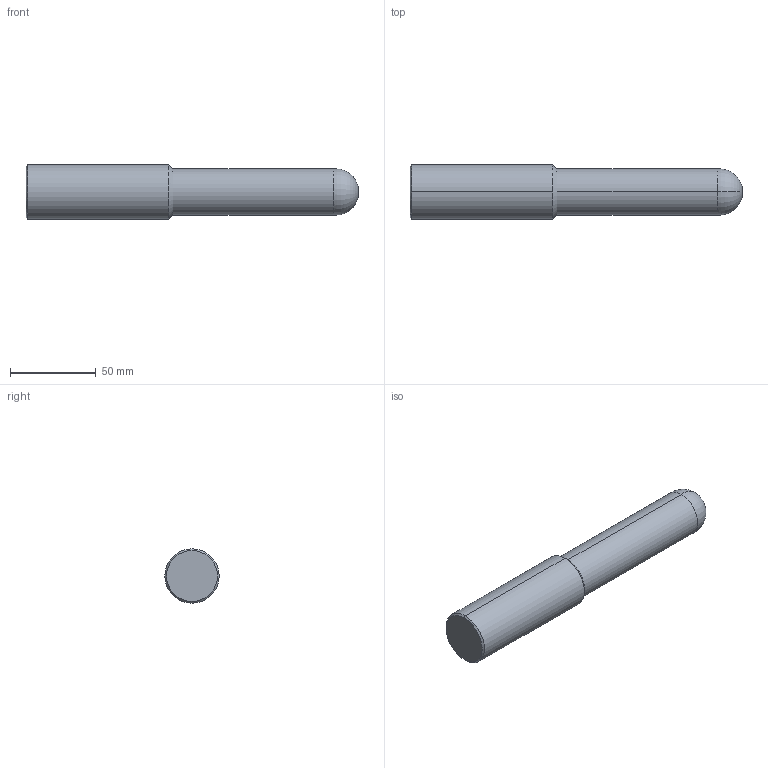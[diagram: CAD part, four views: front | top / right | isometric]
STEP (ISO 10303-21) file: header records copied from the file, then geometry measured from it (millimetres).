
FILE_DESCRIPTION (( 'STEP AP214' ), '1' );
FILE_NAME ('01-0230.STEP', '2021-02-10T00:27:25', ( 'USER' ), ( '' ), 'SwSTEP 2.0', 'SolidWorks 2018', '' );
FILE_SCHEMA (( 'AUTOMOTIVE_DESIGN' ));
Length unit declared in the file: millimetre
Products named in the file (2): 01-0230
Bounding box: 193.9 x 31.75 x 31.75 mm (x, y, z)
Volume: 127131.1 mm3; surface area: 18565.6 mm2
Topology: 1 solids, 1 shells, 12 faces, 22 edges, 12 vertices
Faces by surface type: cone 4, cylinder 4, torus 2, plane 2
Entity records: 345 total; most frequent: DIRECTION 64, CARTESIAN_POINT 48, ORIENTED_EDGE 44, AXIS2_PLACEMENT_3D 28, EDGE_CURVE 22, CIRCLE 14, VERTEX_POINT 12, EDGE_LOOP 12
